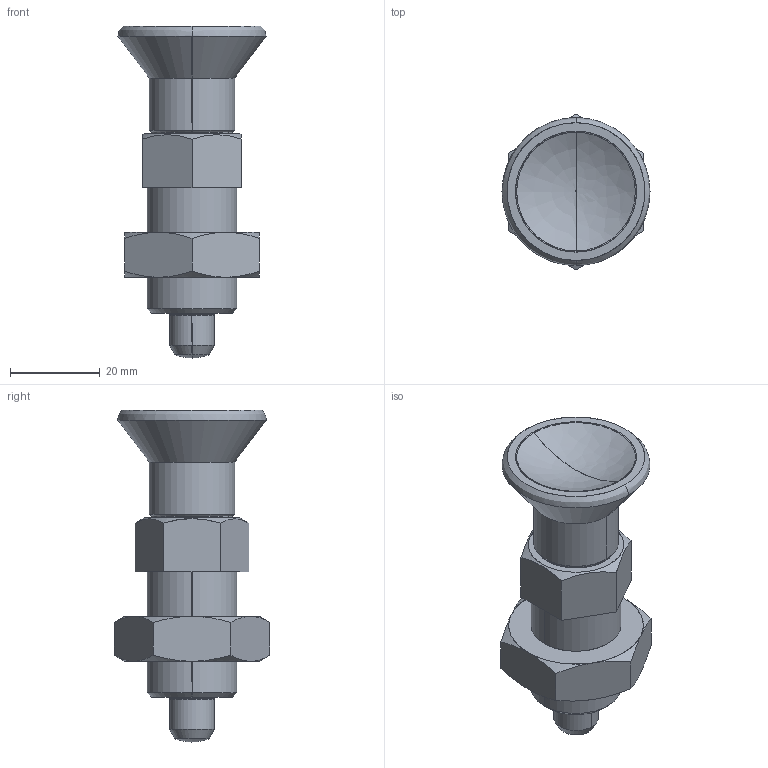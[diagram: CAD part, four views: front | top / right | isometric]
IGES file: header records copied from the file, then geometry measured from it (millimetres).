
Start section: SolidWorks IGES file using analytic representation for surfaces
Global section: file name: X:\11_SW2020-Inv2020\00_全2021-11新製品まで\n\NDXN20AW-SUS\ndxn20aw-sus.IGS; native system: SolidWorks 2020; preprocessor: SolidWorks 2020; author: ImaoCorp; date: 211026.132032; units: millimetre
Bounding box: 33 x 34.64 x 74 mm (x, y, z)
Surface area: 8731.1 mm2 (no closed solid volume)
Topology: 0 solids, 0 shells, 66 faces, 860 edges, 857 vertices
Faces by surface type: revolution 38, bspline 28
